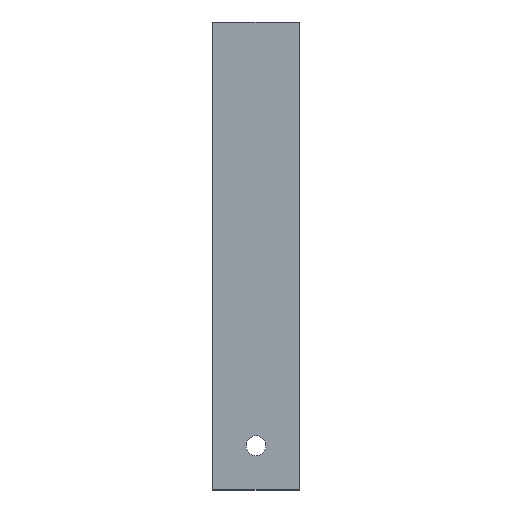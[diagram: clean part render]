
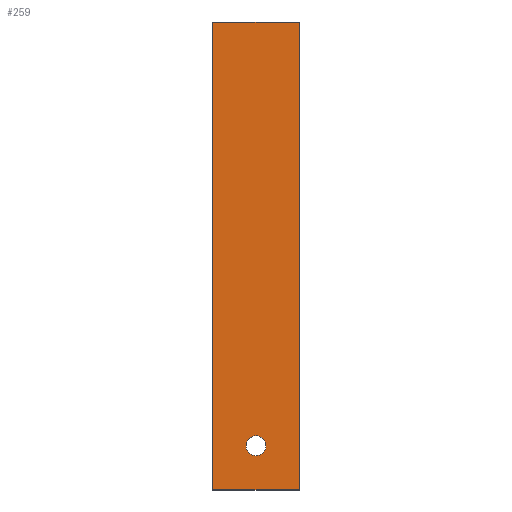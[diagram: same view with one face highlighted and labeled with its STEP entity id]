
A CAD part, top view. The second image highlights one B-rep face of the part: STEP entity #259.
In plain terms, the highlighted planar face has unit normal (0, 0, 1).
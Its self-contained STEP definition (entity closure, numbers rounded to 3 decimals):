
#37=CARTESIAN_POINT('',(1791.5,-420.0,80.0));
#38=VERTEX_POINT('',#37);
#45=CARTESIAN_POINT('',(1713.5,-420.0,80.0));
#46=VERTEX_POINT('',#45);
#47=CARTESIAN_POINT('',(1713.5,-420.0,80.0));
#48=DIRECTION('',(1.0,0.0,0.0));
#49=VECTOR('',#48,1.);
#50=LINE('',#47,#49);
#51=EDGE_CURVE('',#46,#38,#50,.T.);
#109=CARTESIAN_POINT('',(1791.5,3.037,80.0));
#110=VERTEX_POINT('',#109);
#117=CARTESIAN_POINT('',(1791.5,-420.0,80.0));
#118=DIRECTION('',(0.,1.0,0.0));
#119=VECTOR('',#118,1.);
#120=LINE('',#117,#119);
#121=EDGE_CURVE('',#38,#110,#120,.T.);
#140=CARTESIAN_POINT('',(1713.5,3.037,80.0));
#141=VERTEX_POINT('',#140);
#148=CARTESIAN_POINT('',(1791.5,3.037,80.0));
#149=DIRECTION('',(-1.0,0.,0.0));
#150=VECTOR('',#149,1.);
#151=LINE('',#148,#150);
#152=EDGE_CURVE('',#110,#141,#151,.T.);
#204=CARTESIAN_POINT('',(1713.5,3.037,80.0));
#205=DIRECTION('',(0.,-1.0,0.0));
#206=VECTOR('',#205,1.);
#207=LINE('',#204,#206);
#208=EDGE_CURVE('',#141,#46,#207,.T.);
#237=CARTESIAN_POINT('',(1713.5,-420.0,80.0));
#238=DIRECTION('',(0.0,0.0,1.0));
#239=DIRECTION('',(1.0,0.0,0.0));
#240=AXIS2_PLACEMENT_3D('',#237,#238,#239);
#241=PLANE('',#240);
#242=ORIENTED_EDGE('',*,*,#51,.T.);
#243=ORIENTED_EDGE('',*,*,#121,.T.);
#244=ORIENTED_EDGE('',*,*,#152,.T.);
#245=ORIENTED_EDGE('',*,*,#208,.T.);
#246=EDGE_LOOP('',(#242,#243,#244,#245));
#247=FACE_OUTER_BOUND('',#246,.T.);
#248=CARTESIAN_POINT('',(1761.5,-380.0,80.0));
#249=VERTEX_POINT('',#248);
#250=CARTESIAN_POINT('',(1752.5,-380.0,80.0));
#251=DIRECTION('',(0.0,0.,-1.0));
#252=DIRECTION('',(1.0,0.0,0.0));
#253=AXIS2_PLACEMENT_3D('',#250,#251,#252);
#254=CIRCLE('',#253,9.0);
#255=EDGE_CURVE('',#249,#249,#254,.T.);
#256=ORIENTED_EDGE('',*,*,#255,.T.);
#257=EDGE_LOOP('',(#256));
#258=FACE_BOUND('',#257,.T.);
#259=ADVANCED_FACE('',(#247,#258),#241,.T.);
